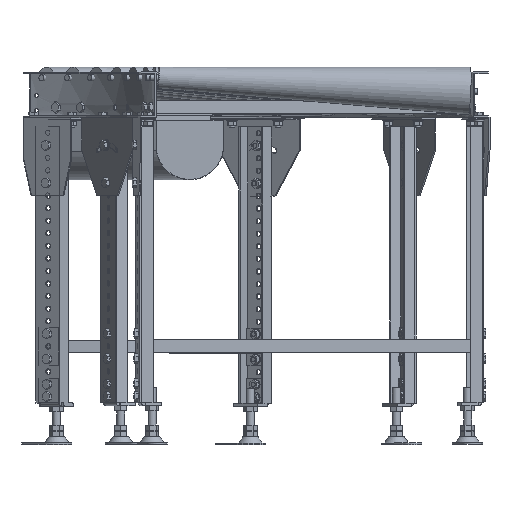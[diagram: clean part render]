
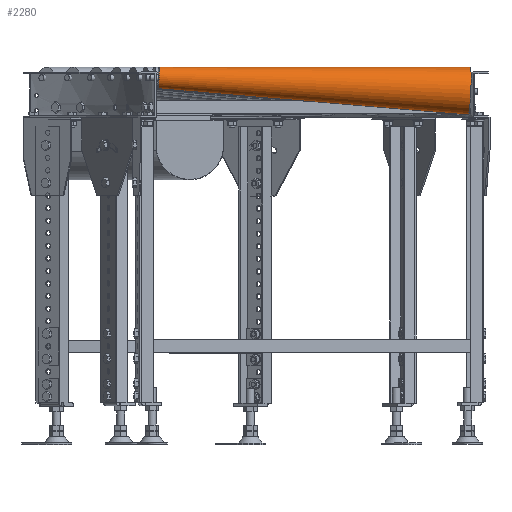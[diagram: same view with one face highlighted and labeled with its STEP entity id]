
A CAD part, top view. The second image highlights one B-rep face of the part: STEP entity #2280.
In plain terms, the highlighted free-form (B-spline) face has degree [2, 1] with [7, 2] control points.
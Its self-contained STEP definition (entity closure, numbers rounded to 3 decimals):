
#2280=ADVANCED_FACE('',(#10317),#10316,.T.);
#10316=( BOUNDED_SURFACE() B_SPLINE_SURFACE( 2,1,((#35501,#35502),(#35503,#35504),(#35505,#35506),(#35507,#35508),(#35509,#35510),(#35511,#35512),(#35513,#35514)), .UNSPECIFIED.,.T.,.F.,.F.) B_SPLINE_SURFACE_WITH_KNOTS((3,2,2,3),(2,2),(0.,0.333,0.667,1.),(0.,1.), .UNSPECIFIED. ) GEOMETRIC_REPRESENTATION_ITEM() RATIONAL_B_SPLINE_SURFACE(((1.,1.),(0.5,0.5),(1.,1.),(0.5,0.5),(1.,1.),(0.5,0.5),(1.,1.))) REPRESENTATION_ITEM('') SURFACE() );
#10317=FACE_OUTER_BOUND('',#35515,.T.);
#35501=CARTESIAN_POINT('',(502.257,-32.89,-50.902));
#35502=CARTESIAN_POINT('',(1118.338,-73.274,-113.349));
#35503=CARTESIAN_POINT('',(502.257,-1.838,-70.983));
#35504=CARTESIAN_POINT('',(1118.338,-4.116,-158.073));
#35505=CARTESIAN_POINT('',(504.749,-0.026,-34.132));
#35506=CARTESIAN_POINT('',(1123.889,-0.081,-76.001));
#35507=CARTESIAN_POINT('',(507.242,1.786,2.718));
#35508=CARTESIAN_POINT('',(1129.439,3.955,6.072));
#35509=CARTESIAN_POINT('',(504.749,-31.078,-14.051));
#35510=CARTESIAN_POINT('',(1123.889,-69.238,-31.277));
#35511=CARTESIAN_POINT('',(502.257,-63.941,-30.821));
#35512=CARTESIAN_POINT('',(1118.338,-142.432,-68.626));
#35513=CARTESIAN_POINT('',(502.257,-32.89,-50.902));
#35514=CARTESIAN_POINT('',(1118.338,-73.274,-113.349));
#35515=EDGE_LOOP('',(#49819,#49820,#49821,#49822,#49823));
#49819=ORIENTED_EDGE('',*,*,#61806,.T.);
#49820=ORIENTED_EDGE('',*,*,#61817,.T.);
#49821=ORIENTED_EDGE('',*,*,#61809,.T.);
#49822=ORIENTED_EDGE('',*,*,#61810,.T.);
#49823=ORIENTED_EDGE('',*,*,#61817,.F.);
#61806=EDGE_CURVE('',#76577,#76577,#76578,.T.);
#61809=EDGE_CURVE('',#76598,#76599,#76600,.T.);
#61810=EDGE_CURVE('',#76599,#76598,#76606,.T.);
#61817=EDGE_CURVE('',#76577,#76598,#76652,.T.);
#76577=VERTEX_POINT('',#117331);
#76578=CIRCLE('',#117335,21.35);
#76598=VERTEX_POINT('',#117346);
#76599=VERTEX_POINT('',#117347);
#76600=CIRCLE('',#117351,47.55);
#76606=CIRCLE('',#117355,47.55);
#76652=(BOUNDED_CURVE() B_SPLINE_CURVE(1,(#117380,#117381),.UNSPECIFIED.,.F.,.F.) B_SPLINE_CURVE_WITH_KNOTS((2,2),(0.,1.),.UNSPECIFIED.) CURVE() GEOMETRIC_REPRESENTATION_ITEM() RATIONAL_B_SPLINE_CURVE((1.,1.)) REPRESENTATION_ITEM('') );
#117331=CARTESIAN_POINT('',(502.257,-32.89,-50.902));
#117332=CARTESIAN_POINT('',(503.919,-21.331,-33.029));
#117333=DIRECTION('',(0.997,-0.042,-0.065));
#117334=DIRECTION('',(-0.078,-0.541,-0.837));
#117335=AXIS2_PLACEMENT_3D('',#117332,#117333,#117334);
#117346=CARTESIAN_POINT('',(1118.338,-73.274,-113.349));
#117347=CARTESIAN_POINT('',(1125.739,-21.788,-33.735));
#117348=CARTESIAN_POINT('',(1122.039,-47.531,-73.542));
#117349=DIRECTION('',(-0.997,0.042,0.065));
#117350=DIRECTION('',(0.078,0.541,0.837));
#117351=AXIS2_PLACEMENT_3D('',#117348,#117349,#117350);
#117352=CARTESIAN_POINT('',(1122.039,-47.531,-73.542));
#117353=DIRECTION('',(-0.997,0.042,0.065));
#117354=DIRECTION('',(0.078,0.541,0.837));
#117355=AXIS2_PLACEMENT_3D('',#117352,#117353,#117354);
#117380=CARTESIAN_POINT('',(502.257,-32.89,-50.902));
#117381=CARTESIAN_POINT('',(1118.338,-73.274,-113.349));
